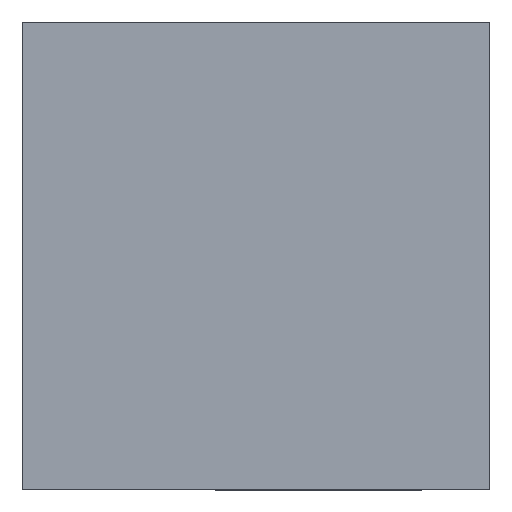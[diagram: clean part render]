
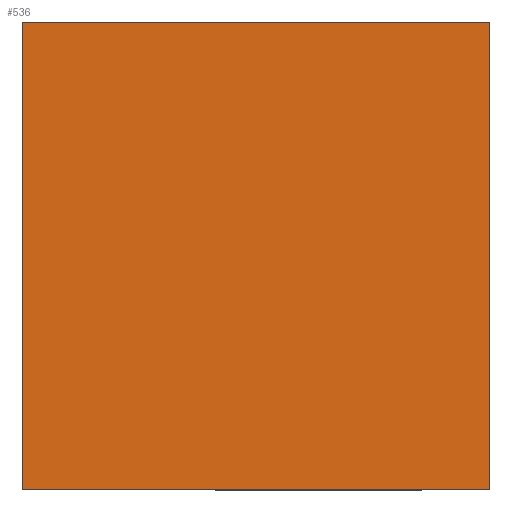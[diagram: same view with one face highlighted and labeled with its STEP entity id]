
A CAD part, top view. The second image highlights one B-rep face of the part: STEP entity #536.
In plain terms, the highlighted planar face has unit normal (0, 0, 1).
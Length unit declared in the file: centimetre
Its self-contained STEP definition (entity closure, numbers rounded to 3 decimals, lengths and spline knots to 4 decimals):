
#5 = LINE ( 'NONE', #131, #170 ) ;
#25 = EDGE_CURVE ( 'NONE', #403, #337, #5, .T. ) ;
#28 = LINE ( 'NONE', #121, #273 ) ;
#39 = EDGE_CURVE ( 'NONE', #174, #453, #484, .T. ) ;
#49 = DIRECTION ( 'NONE',  ( 1., 0., 0. ) ) ;
#64 = CARTESIAN_POINT ( 'NONE',  ( 0., 1000., 1000. ) ) ;
#71 = LINE ( 'NONE', #153, #538 ) ;
#91 = ORIENTED_EDGE ( 'NONE', *, *, #333, .T. ) ;
#121 = CARTESIAN_POINT ( 'NONE',  ( 1000., 1000., 1000. ) ) ;
#122 = DIRECTION ( 'NONE',  ( 1., 0., 0. ) ) ;
#131 = CARTESIAN_POINT ( 'NONE',  ( 0., 0., 1000. ) ) ;
#153 = CARTESIAN_POINT ( 'NONE',  ( 0., 1000., 1000. ) ) ;
#170 = VECTOR ( 'NONE', #49, 100. ) ;
#174 = VERTEX_POINT ( 'NONE', #342 ) ;
#204 = AXIS2_PLACEMENT_3D ( 'NONE', #413, #340, #122 ) ;
#209 = FACE_OUTER_BOUND ( 'NONE', #487, .T. ) ;
#241 = VECTOR ( 'NONE', #269, 100. ) ;
#260 = ORIENTED_EDGE ( 'NONE', *, *, #455, .T. ) ;
#269 = DIRECTION ( 'NONE',  ( -1., 0., 0. ) ) ;
#273 = VECTOR ( 'NONE', #377, 100. ) ;
#315 = CARTESIAN_POINT ( 'NONE',  ( 1000., 0., 1000. ) ) ;
#333 = EDGE_CURVE ( 'NONE', #453, #403, #71, .T. ) ;
#337 = VERTEX_POINT ( 'NONE', #315 ) ;
#340 = DIRECTION ( 'NONE',  ( 0., 0., 1. ) ) ;
#342 = CARTESIAN_POINT ( 'NONE',  ( 1000., 1000., 1000. ) ) ;
#377 = DIRECTION ( 'NONE',  ( 0., 1., 0. ) ) ;
#403 = VERTEX_POINT ( 'NONE', #519 ) ;
#406 = CARTESIAN_POINT ( 'NONE',  ( 0., 1000., 1000. ) ) ;
#413 = CARTESIAN_POINT ( 'NONE',  ( 0., 0., 1000. ) ) ;
#449 = PLANE ( 'NONE',  #204 ) ;
#453 = VERTEX_POINT ( 'NONE', #406 ) ;
#455 = EDGE_CURVE ( 'NONE', #337, #174, #28, .T. ) ;
#467 = ORIENTED_EDGE ( 'NONE', *, *, #39, .T. ) ;
#484 = LINE ( 'NONE', #64, #241 ) ;
#487 = EDGE_LOOP ( 'NONE', ( #91, #516, #260, #467 ) ) ;
#516 = ORIENTED_EDGE ( 'NONE', *, *, #25, .T. ) ;
#519 = CARTESIAN_POINT ( 'NONE',  ( 0., 0., 1000. ) ) ;
#528 = DIRECTION ( 'NONE',  ( 0., -1., 0. ) ) ;
#536 = ADVANCED_FACE ( 'NONE', ( #209 ), #449, .T. ) ;
#538 = VECTOR ( 'NONE', #528, 100. ) ;
